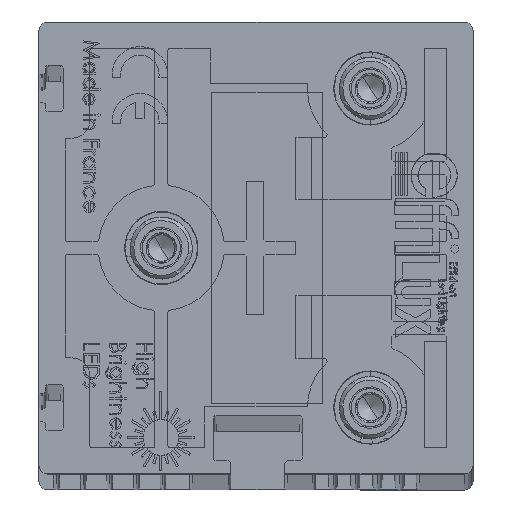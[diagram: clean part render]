
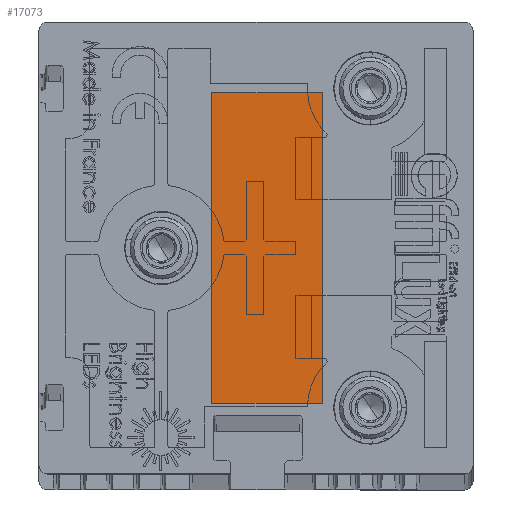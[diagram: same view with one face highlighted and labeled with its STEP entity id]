
A CAD part, top view. The second image highlights one B-rep face of the part: STEP entity #17073.
In plain terms, the highlighted planar face has unit normal (0, 0, 1) as drawn and (0, -1, 0) by its records, which use the part's own axes.
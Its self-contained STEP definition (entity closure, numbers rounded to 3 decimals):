
#7237 = CARTESIAN_POINT ( 'NONE',  ( 8., 0.1, -32. ) ) ;
#11549 = PLANE ( 'NONE',  #56358 ) ;
#11674 = FACE_OUTER_BOUND ( 'NONE', #126856, .T. ) ;
#15805 = VERTEX_POINT ( 'NONE', #27829 ) ;
#17073 = ADVANCED_FACE ( 'NONE', ( #11674 ), #11549, .T. ) ;
#18912 = LINE ( 'NONE', #125410, #35036 ) ;
#20531 = EDGE_CURVE ( 'NONE', #80383, #15805, #18912, .T. ) ;
#20998 = DIRECTION ( 'NONE',  ( 0., 0., -1. ) ) ;
#24416 = DIRECTION ( 'NONE',  ( -1., 0., 0. ) ) ;
#26491 = DIRECTION ( 'NONE',  ( 1., 0., 0. ) ) ;
#26767 = VERTEX_POINT ( 'NONE', #7237 ) ;
#27829 = CARTESIAN_POINT ( 'NONE',  ( 8., 0.1, -19.5 ) ) ;
#33424 = CARTESIAN_POINT ( 'NONE',  ( 43., 0.1, -32. ) ) ;
#35036 = VECTOR ( 'NONE', #24416, 1000. ) ;
#44495 = ORIENTED_EDGE ( 'NONE', *, *, #126712, .T. ) ;
#45170 = LINE ( 'NONE', #108721, #54793 ) ;
#54793 = VECTOR ( 'NONE', #97948, 1000. ) ;
#56358 = AXIS2_PLACEMENT_3D ( 'NONE', #124227, #83333, #20998 ) ;
#59505 = EDGE_CURVE ( 'NONE', #26767, #91805, #74416, .T. ) ;
#74416 = LINE ( 'NONE', #108169, #98511 ) ;
#78926 = LINE ( 'NONE', #108093, #127143 ) ;
#80383 = VERTEX_POINT ( 'NONE', #99666 ) ;
#83333 = DIRECTION ( 'NONE',  ( 0., -1., 0. ) ) ;
#85872 = ORIENTED_EDGE ( 'NONE', *, *, #59505, .T. ) ;
#90922 = EDGE_CURVE ( 'NONE', #91805, #80383, #45170, .T. ) ;
#91805 = VERTEX_POINT ( 'NONE', #33424 ) ;
#97948 = DIRECTION ( 'NONE',  ( 0., 0., 1. ) ) ;
#98511 = VECTOR ( 'NONE', #26491, 1000. ) ;
#99666 = CARTESIAN_POINT ( 'NONE',  ( 43., 0.1, -19.5 ) ) ;
#108093 = CARTESIAN_POINT ( 'NONE',  ( 8., 0.1, -32. ) ) ;
#108169 = CARTESIAN_POINT ( 'NONE',  ( 43., 0.1, -32. ) ) ;
#108721 = CARTESIAN_POINT ( 'NONE',  ( 43., 0.1, -32. ) ) ;
#124227 = CARTESIAN_POINT ( 'NONE',  ( 43., 0.1, -19.5 ) ) ;
#124649 = ORIENTED_EDGE ( 'NONE', *, *, #20531, .T. ) ;
#125410 = CARTESIAN_POINT ( 'NONE',  ( 43., 0.1, -19.5 ) ) ;
#126712 = EDGE_CURVE ( 'NONE', #15805, #26767, #78926, .T. ) ;
#126856 = EDGE_LOOP ( 'NONE', ( #132769, #124649, #44495, #85872 ) ) ;
#127143 = VECTOR ( 'NONE', #127435, 1000. ) ;
#127435 = DIRECTION ( 'NONE',  ( 0., 0., -1. ) ) ;
#132769 = ORIENTED_EDGE ( 'NONE', *, *, #90922, .T. ) ;
